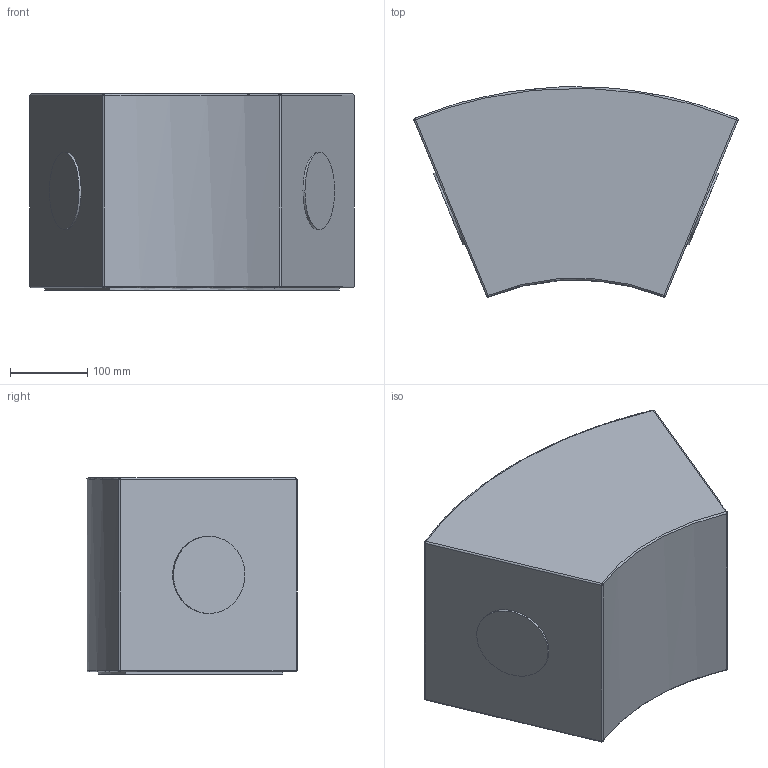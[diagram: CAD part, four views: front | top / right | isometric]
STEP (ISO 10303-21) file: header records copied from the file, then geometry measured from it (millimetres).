
FILE_DESCRIPTION(/* description */ (''),/* implementation_level */ '2;1');
FILE_NAME(/* name */ 'kinoshita_baobabland_k111',/* time_stamp */ '2026-04-02T15:13:44+09:00',/* author */ (''),/* organization */ (''),/* preprocessor_version */ 'ST-DEVELOPER v16.5',/* originating_system */ '',/* authorisation */ '');
FILE_SCHEMA (('AUTOMOTIVE_DESIGN'));
Length unit declared in the file: millimetre
Products named in the file (1): Document
Bounding box: 419.72 x 271.97 x 254 mm (x, y, z)
Volume: 21260928.8 mm3; surface area: 628404.7 mm2
Topology: 4 solids, 4 shells, 38 faces, 74 edges, 36 vertices
Faces by surface type: bspline 26, plane 12
Entity records: 1106 total; most frequent: CARTESIAN_POINT 658, ORIENTED_EDGE 132, EDGE_CURVE 66, ADVANCED_FACE 38, FACE_OUTER_BOUND 38, EDGE_LOOP 38, VERTEX_POINT 36, B_SPLINE_CURVE_WITH_KNOTS 30
